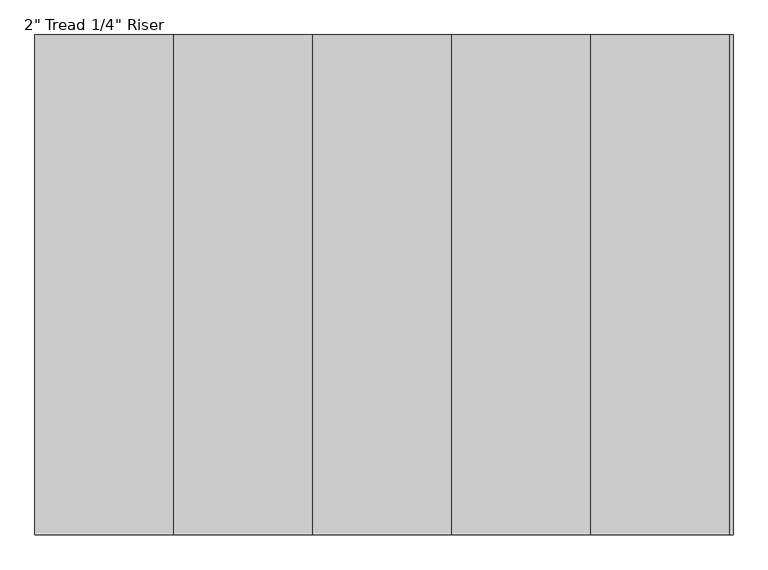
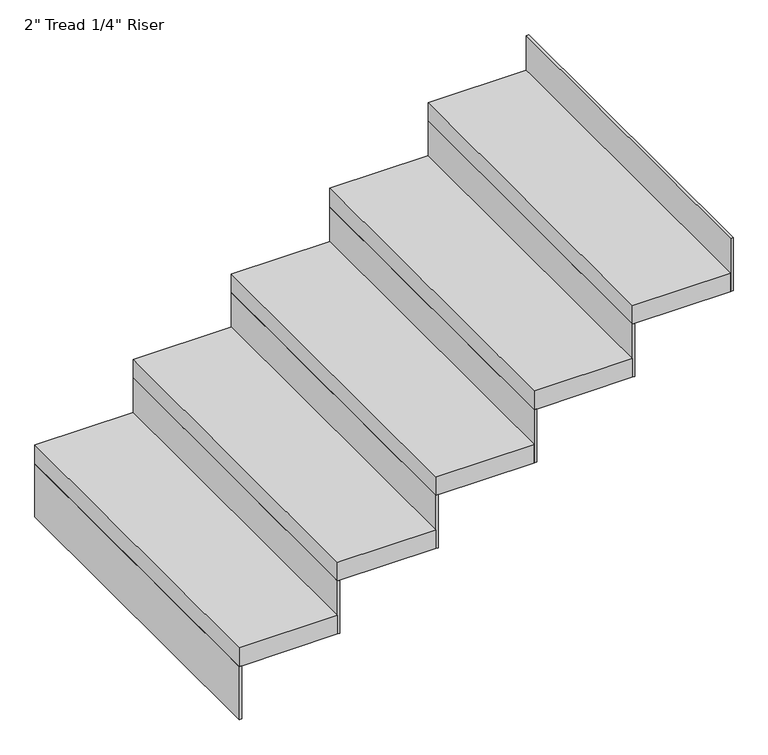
"""IFC4 building model written with IfcOpenShell, lengths in millimetres: stair flight geometry."""

from ifc_helpers import new_model, si_unit, frame, origin, place, context, project, spatial, polyline, outline, extrude, source, transform, mapped, element, save


def stair_flight_dd7b6ecc(model_context):
    return source(origin(), model_context, "Body", "SweptSolid", [
        extrude(outline(polyline([(114029.2382982, 15846.0395941), (114022.8882982, 15846.0395941), (114022.8882982, 16760.4395941), (114029.2382982, 16760.4395941), (114029.2382982, 15846.0395941)])), frame((0.0, 0.0, 2126.3428571), z_axis=(0.0, 0.0, 1.0), x_axis=(1.0, 0.0, 0.0)), (0.0, 0.0, 1.0), 145.1428571),
        extrude(outline(polyline([(114276.8882982, 16760.4395941), (114276.8882982, 15846.0395941), (114022.8882982, 15846.0395941), (114022.8882982, 16760.4395941), (114276.8882982, 16760.4395941)])), frame((0.0, 0.0, 2271.4857143), z_axis=(0.0, 0.0, 1.0), x_axis=(1.0, 0.0, 0.0)), (0.0, 0.0, 1.0), 50.8),
        extrude(outline(polyline([(114283.2382982, 15846.0395941), (114276.8882982, 15846.0395941), (114276.8882982, 16760.4395941), (114283.2382982, 16760.4395941), (114283.2382982, 15846.0395941)])), frame((0.0, 0.0, 2271.4857143), z_axis=(0.0, 0.0, 1.0), x_axis=(1.0, 0.0, 0.0)), (0.0, 0.0, 1.0), 145.1428571),
        extrude(outline(polyline([(114530.8882982, 16760.4395941), (114530.8882982, 15846.0395941), (114276.8882982, 15846.0395941), (114276.8882982, 16760.4395941), (114530.8882982, 16760.4395941)])), frame((0.0, 0.0, 2416.6285714), z_axis=(0.0, 0.0, 1.0), x_axis=(1.0, 0.0, 0.0)), (0.0, 0.0, 1.0), 50.8),
        extrude(outline(polyline([(114537.2382982, 15846.0395941), (114530.8882982, 15846.0395941), (114530.8882982, 16760.4395941), (114537.2382982, 16760.4395941), (114537.2382982, 15846.0395941)])), frame((0.0, 0.0, 2416.6285714), z_axis=(0.0, 0.0, 1.0), x_axis=(1.0, 0.0, 0.0)), (0.0, 0.0, 1.0), 145.1428571),
        extrude(outline(polyline([(114784.8882982, 16760.4395941), (114784.8882982, 15846.0395941), (114530.8882982, 15846.0395941), (114530.8882982, 16760.4395941), (114784.8882982, 16760.4395941)])), frame((0.0, 0.0, 2561.7714286), z_axis=(0.0, 0.0, 1.0), x_axis=(1.0, 0.0, 0.0)), (0.0, 0.0, 1.0), 50.8),
        extrude(outline(polyline([(114791.2382982, 15846.0395941), (114784.8882982, 15846.0395941), (114784.8882982, 16760.4395941), (114791.2382982, 16760.4395941), (114791.2382982, 15846.0395941)])), frame((0.0, 0.0, 2561.7714286), z_axis=(0.0, 0.0, 1.0), x_axis=(1.0, 0.0, 0.0)), (0.0, 0.0, 1.0), 145.1428571),
        extrude(outline(polyline([(115038.8882982, 16760.4395941), (115038.8882982, 15846.0395941), (114784.8882982, 15846.0395941), (114784.8882982, 16760.4395941), (115038.8882982, 16760.4395941)])), frame((0.0, 0.0, 2706.9142857), z_axis=(0.0, 0.0, 1.0), x_axis=(1.0, 0.0, 0.0)), (0.0, 0.0, 1.0), 50.8),
        extrude(outline(polyline([(115045.2382982, 15846.0395941), (115038.8882982, 15846.0395941), (115038.8882982, 16760.4395941), (115045.2382982, 16760.4395941), (115045.2382982, 15846.0395941)])), frame((0.0, 0.0, 2706.9142857), z_axis=(0.0, 0.0, 1.0), x_axis=(1.0, 0.0, 0.0)), (0.0, 0.0, 1.0), 145.1428571),
        extrude(outline(polyline([(115299.2382982, 15846.0395941), (115292.8882982, 15846.0395941), (115292.8882982, 16760.4395941), (115299.2382982, 16760.4395941), (115299.2382982, 15846.0395941)])), frame((0.0, 0.0, 2852.0571429), z_axis=(0.0, 0.0, 1.0), x_axis=(1.0, 0.0, 0.0)), (0.0, 0.0, 1.0), 145.1428571),
        extrude(outline(polyline([(115292.8882982, 16760.4395941), (115292.8882982, 15846.0395941), (115038.8882982, 15846.0395941), (115038.8882982, 16760.4395941), (115292.8882982, 16760.4395941)])), frame((0.0, 0.0, 2852.0571429), z_axis=(0.0, 0.0, 1.0), x_axis=(1.0, 0.0, 0.0)), (0.0, 0.0, 1.0), 50.8),
    ])


if __name__ == "__main__":
    model = new_model("IFC4")
    model_context = context("Model", 3, world=origin())
    ifc_project = project(units=[si_unit("LENGTHUNIT", "METRE", prefix="MILLI")], contexts=[model_context])
    site = spatial("IfcSite", under=ifc_project)
    building = spatial("IfcBuilding", under=site)
    placement = place(None, origin())
    stair_flight_shape = stair_flight_dd7b6ecc(model_context)
    element("IfcStairFlight", 1, ObjectType="2\" Tread 1/4\" Riser", at=placement, inside=building, context=model_context, shape_type="MappedRepresentation", body=[
        mapped(stair_flight_shape, transform((0.0, 0.0, 0.0), x_axis=(1.0, 0.0, 0.0), y_axis=(0.0, 1.0, 0.0), z_axis=(0.0, 0.0, 1.0))),
    ])
    save(model, "model.ifc")
